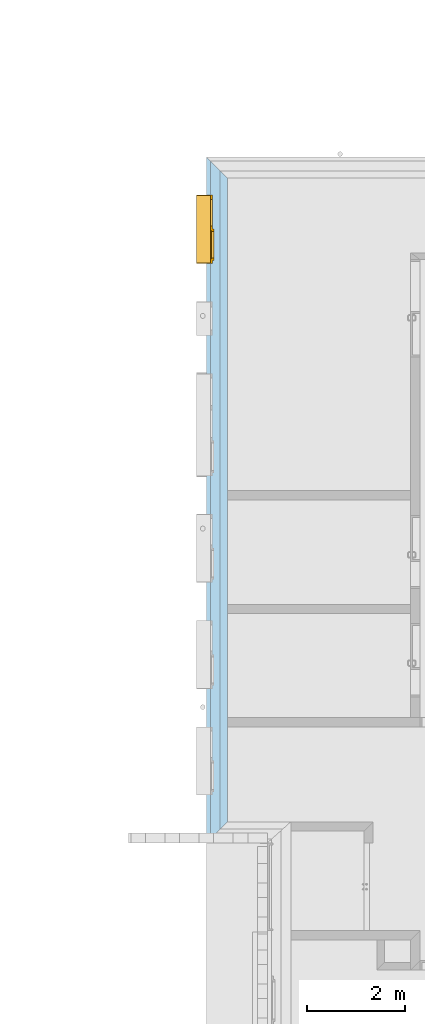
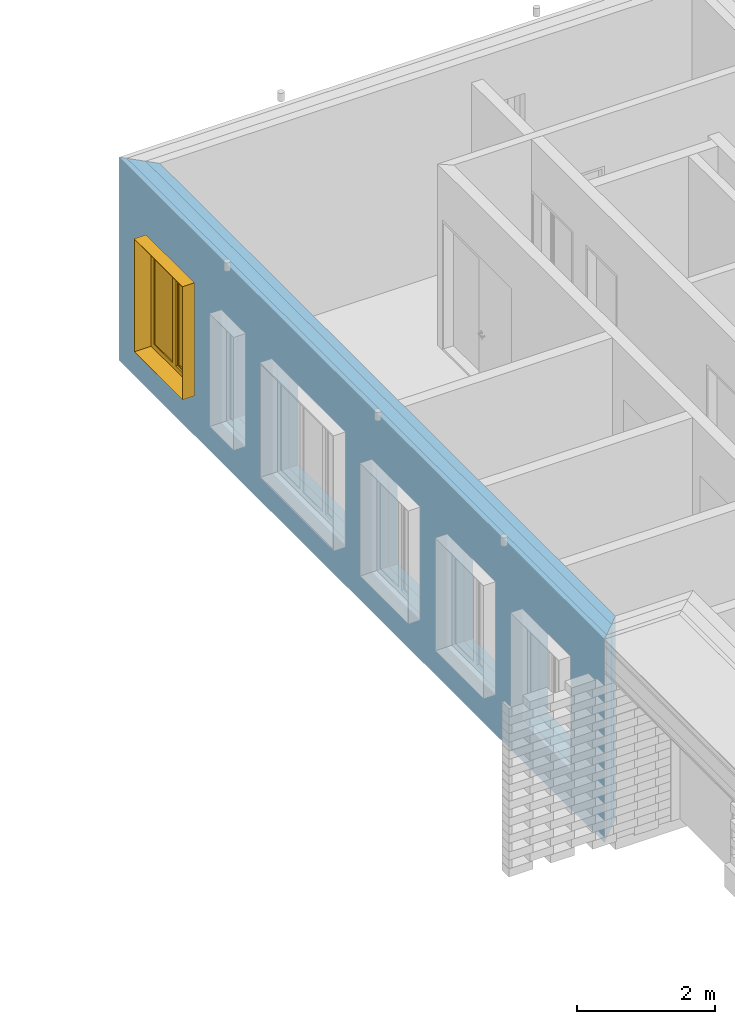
# One storey, part 34 of 62: 1 window, 6 openings, 1 element without a shape of its own, plus 3 elements that do not belong to this part.
"""IFC2X3 building model written with IfcOpenShell, lengths in millimetres."""

from ifc_helpers import new_model, entity, si_unit, converted_unit, derived_unit, money_unit, direction, frame, origin_with_axes, origin_2d_with_axis, place, context, subcontext, project, spatial, polyline, rectangle, outline, extrude, open_shell, faceted_brep, surface_model, material, type_object, element, fill, aggregate, save


model = new_model("IFC2X3")

# Units and contexts
model_context = context("Model", 3, precision=0.01, world=origin_with_axes(), true_north=direction((0.0, 1.0)))
body_context = subcontext(model_context, "Body", "Model", "MODEL_VIEW")
ifc_project = project(units=[si_unit("LENGTHUNIT", "METRE", prefix="MILLI"), si_unit("AREAUNIT", "SQUARE_METRE"), si_unit("VOLUMEUNIT", "CUBIC_METRE"), converted_unit("PLANEANGLEUNIT", "DEGREE", entity("IfcPlaneAngleMeasure", 0.0174532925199), si_unit("PLANEANGLEUNIT", "RADIAN"), dimensions=[0, 0, 0, 0, 0, 0, 0]), si_unit("SOLIDANGLEUNIT", "STERADIAN"), money_unit("EUR"), converted_unit("TIMEUNIT", "Year", entity("IfcTimeMeasure", 31556926.0), si_unit("TIMEUNIT", "SECOND"), dimensions=[0, 0, 1, 0, 0, 0, 0]), si_unit("MASSUNIT", "GRAM", prefix="KILO"), si_unit("THERMODYNAMICTEMPERATUREUNIT", "DEGREE_CELSIUS"), si_unit("LUMINOUSINTENSITYUNIT", "LUMEN"), si_unit("ENERGYUNIT", "JOULE", prefix="MEGA"), derived_unit("THERMALCONDUCTANCEUNIT", [(si_unit("POWERUNIT", "WATT"), 1), (si_unit("LENGTHUNIT", "METRE"), -1), (si_unit("THERMODYNAMICTEMPERATUREUNIT", "KELVIN"), -1)]), derived_unit("SPECIFICHEATCAPACITYUNIT", [(si_unit("ENERGYUNIT", "JOULE"), 1), (si_unit("MASSUNIT", "GRAM", prefix="KILO"), -1), (si_unit("THERMODYNAMICTEMPERATUREUNIT", "KELVIN"), -1)]), derived_unit("MASSDENSITYUNIT", [(si_unit("MASSUNIT", "GRAM", prefix="KILO"), 1), (si_unit("VOLUMEUNIT", "CUBIC_METRE"), -1)])], contexts=[model_context])

# Site, building, storey
site_placement = place(None, origin_with_axes())
site = spatial("IfcSite", under=ifc_project, at=site_placement, Name="KIRDE 14, ELVA", CompositionType="ELEMENT")
building_placement = place(site_placement, origin_with_axes())
building = spatial("IfcBuilding", under=site, at=building_placement, Name="PPA ja Päästeameti ühishoone", CompositionType="ELEMENT")
storey_placement = place(building_placement, origin_with_axes())
storey = spatial("IfcBuildingStorey", under=building, at=storey_placement, Name="Esimene korrus", CompositionType="ELEMENT", Elevation=0.0)

# Window
window_style = type_object("IfcWindowStyle", Name="Double Window 24", ConstructionType="NOTDEFINED", OperationType="DOUBLE_PANEL_VERTICAL", ParameterTakesPrecedence=False, Sizeable=False)
wall_placement = place(storey_placement, frame((6.053596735e-06, 11400.3970033, 0.0), z_axis=(0.0, 0.0, 1.0), x_axis=(-3.88068132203e-10, 1.0, 0.0)))
opening_2_placement = place(wall_placement, frame((12149.4861718, 0.0, 700.0), z_axis=(0.0, 0.0, 1.0), x_axis=(1.0, 0.0, 0.0)))
window_placement = place(opening_2_placement, frame((700.0, 0.0, 0.0), z_axis=(0.0, 0.0, 1.0), x_axis=(-1.0, 0.0, 0.0)))
window = element("IfcWindow", 1, at=window_placement, inside=storey, type_object=window_style, Name="A-05", ObjectType="WINDOW", OverallHeight=2000.0, OverallWidth=1400.0, context=body_context, shape_type="SurfaceModel", body=[
    faceted_brep([(1399.99999986, -349.999995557, 0.0), (1399.99999983, -429.999995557, 0.0), (-1.66870961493e-07, -429.999995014, 0.0), (-1.35823796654e-07, -349.999995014, 0.0), (1399.99999986, -349.999995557, 2000.0), (1399.99999983, -429.999995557, 2000.0), (-1.66870961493e-07, -429.999995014, 2000.0), (1394.99999983, -429.999995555, 5.0), (4.99999983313, -429.999995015, 5.0), (4.99999983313, -429.999995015, 1995.0), (1394.99999983, -429.999995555, 1995.0), (-1.35823796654e-07, -349.999995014, 2000.0), (1394.99999986, -349.999995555, 5.0), (1394.99999986, -349.999995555, 1995.0), (4.99999986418, -349.999995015, 1995.0), (4.99999986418, -349.999995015, 5.0)], [[[0, 1, 2, 3]], [[4, 5, 1, 0]], [[1, 5, 6, 2], [7, 8, 9, 10]], [[3, 2, 6, 11]], [[0, 3, 11, 4], [12, 13, 14, 15]], [[11, 6, 5, 4]], [[15, 8, 7, 12]], [[14, 9, 8, 15]], [[13, 10, 9, 14]], [[12, 7, 10, 13]]]),
    faceted_brep([(1399.99999976, -629.999995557, 0.0), (1394.99999976, -629.999995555, 5.0), (1394.99999983, -429.999995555, 5.0), (1399.99999983, -429.999995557, 0.0), (1399.99999976, -629.999995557, 2000.0), (1394.99999976, -629.999995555, 1995.0), (1394.99999983, -429.999995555, 1995.0), (1399.99999983, -429.999995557, 2000.0)], [[[0, 1, 2, 3]], [[0, 4, 5, 1]], [[1, 5, 6, 2]], [[3, 2, 6, 7]], [[4, 0, 3, 7]], [[5, 4, 7, 6]]]),
    faceted_brep([(-2.4448354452e-07, -629.999995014, 2000.0), (4.99999975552, -629.999995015, 1995.0), (4.99999983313, -429.999995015, 1995.0), (-1.66870961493e-07, -429.999995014, 2000.0), (-2.4448354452e-07, -629.999995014, 0.0), (4.99999975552, -629.999995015, 5.0), (4.99999983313, -429.999995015, 5.0), (-1.66870961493e-07, -429.999995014, 0.0)], [[[0, 1, 2, 3]], [[0, 4, 5, 1]], [[1, 5, 6, 2]], [[3, 2, 6, 7]], [[4, 0, 3, 7]], [[5, 4, 7, 6]]]),
    faceted_brep([(-2.4448354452e-07, -629.999995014, 0.0), (4.99999975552, -629.999995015, 5.0), (4.99999983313, -429.999995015, 5.0), (-1.66870961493e-07, -429.999995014, 0.0), (1399.99999976, -629.999995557, 0.0), (1394.99999976, -629.999995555, 5.0), (1394.99999983, -429.999995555, 5.0), (1399.99999983, -429.999995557, 0.0)], [[[0, 1, 2, 3]], [[0, 4, 5, 1]], [[1, 5, 6, 2]], [[3, 2, 6, 7]], [[4, 0, 3, 7]], [[5, 4, 7, 6]]]),
    faceted_brep([(1399.99999976, -629.999995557, 2000.0), (1394.99999976, -629.999995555, 1995.0), (1394.99999983, -429.999995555, 1995.0), (1399.99999983, -429.999995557, 2000.0), (-2.4448354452e-07, -629.999995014, 2000.0), (4.99999975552, -629.999995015, 1995.0), (4.99999983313, -429.999995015, 1995.0), (-1.66870961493e-07, -429.999995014, 2000.0)], [[[0, 1, 2, 3]], [[0, 4, 5, 1]], [[1, 5, 6, 2]], [[3, 2, 6, 7]], [[4, 0, 3, 7]], [[5, 4, 7, 6]]]),
    faceted_brep([(1334.99999988, -299.999995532, 1910.0), (1334.99999987, -324.999995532, 1910.0), (1309.99999987, -324.999995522, 1910.0), (1309.99999986, -349.999995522, 1910.0), (1399.99999986, -349.999995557, 1910.0), (1399.99999988, -299.999995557, 1910.0), (1334.99999988, -299.999995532, 90.0), (1334.99999987, -324.999995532, 90.0), (1309.99999987, -324.999995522, 90.0), (1309.99999986, -349.999995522, 90.0), (1399.99999986, -349.999995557, 90.0), (1399.99999988, -299.999995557, 90.0)], [[[0, 1, 2, 3, 4, 5]], [[1, 0, 6, 7]], [[8, 2, 1, 7]], [[2, 8, 9, 3]], [[4, 3, 9, 10]], [[5, 4, 10, 11]], [[6, 0, 5, 11]], [[7, 6, 11, 10, 9, 8]]]),
    faceted_brep([(719.999999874, -324.999995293, 1910.0), (694.999999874, -324.999995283, 1910.0), (694.999999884, -299.999995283, 1910.0), (629.999999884, -299.999995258, 1910.0), (629.999999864, -349.999995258, 1910.0), (719.999999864, -349.999995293, 1910.0), (719.999999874, -324.999995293, 90.0), (694.999999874, -324.999995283, 90.0), (694.999999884, -299.999995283, 90.0), (629.999999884, -299.999995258, 90.0), (629.999999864, -349.999995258, 90.0), (719.999999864, -349.999995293, 90.0)], [[[0, 1, 2, 3, 4, 5]], [[1, 0, 6, 7]], [[8, 2, 1, 7]], [[2, 8, 9, 3]], [[9, 10, 4, 3]], [[10, 11, 5, 4]], [[6, 0, 5, 11]], [[7, 6, 11, 10, 9, 8]]]),
    faceted_brep([(719.999999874, -324.999995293, 90.0), (694.999999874, -324.999995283, 90.0), (694.999999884, -299.999995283, 90.0), (629.999999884, -299.999995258, 90.0), (629.999999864, -349.999995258, 90.0), (719.999999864, -349.999995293, 90.0), (1309.99999987, -324.999995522, 90.0), (1334.99999987, -324.999995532, 90.0), (1334.99999987, -324.999995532, 65.0), (694.999999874, -324.999995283, 65.0), (694.999999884, -299.999995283, 65.0), (1334.99999988, -299.999995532, 65.0), (1334.99999988, -299.999995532, 90.0), (1399.99999988, -299.999995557, 90.0), (1399.99999988, -299.999995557, 0.0), (-1.16418874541e-07, -299.999995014, 0.0), (-1.16418874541e-07, -299.999995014, 90.0), (89.9999998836, -299.999995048, 90.0), (89.9999998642, -349.999995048, 90.0), (1399.99999986, -349.999995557, 90.0), (1309.99999986, -349.999995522, 90.0), (-1.35823796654e-07, -349.999995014, 90.0), (-1.35823796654e-07, -349.999995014, 0.0), (1399.99999986, -349.999995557, 0.0)], [[[0, 1, 2, 3, 4, 5]], [[1, 0, 6, 7, 8, 9]], [[10, 2, 1, 9]], [[11, 12, 13, 14, 15, 16, 17, 3, 2, 10]], [[17, 18, 4, 3]], [[19, 20, 5, 4, 18, 21, 22, 23]], [[6, 0, 5, 20]], [[7, 6, 20, 19, 13, 12]], [[7, 12, 11, 8]], [[11, 10, 9, 8]], [[13, 19, 23, 14]], [[14, 23, 22, 15]], [[15, 22, 21, 16]], [[16, 21, 18, 17]]]),
    faceted_brep([(1334.99999988, -299.999995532, 1910.0), (1334.99999988, -299.999995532, 1935.0), (694.999999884, -299.999995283, 1935.0), (694.999999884, -299.999995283, 1910.0), (629.999999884, -299.999995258, 1910.0), (89.9999998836, -299.999995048, 1910.0), (-1.16418874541e-07, -299.999995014, 1910.0), (-1.16418874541e-07, -299.999995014, 2000.0), (1399.99999988, -299.999995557, 2000.0), (1399.99999988, -299.999995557, 1910.0), (1334.99999987, -324.999995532, 1910.0), (1334.99999987, -324.999995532, 1935.0), (694.999999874, -324.999995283, 1935.0), (694.999999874, -324.999995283, 1910.0), (719.999999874, -324.999995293, 1910.0), (719.999999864, -349.999995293, 1910.0), (629.999999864, -349.999995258, 1910.0), (89.9999998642, -349.999995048, 1910.0), (-1.35823796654e-07, -349.999995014, 1910.0), (-1.35823796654e-07, -349.999995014, 2000.0), (1399.99999986, -349.999995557, 2000.0), (1399.99999986, -349.999995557, 1910.0), (1309.99999986, -349.999995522, 1910.0), (1309.99999987, -324.999995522, 1910.0)], [[[0, 1, 2, 3, 4, 5, 6, 7, 8, 9]], [[1, 0, 10, 11]], [[2, 1, 11, 12]], [[3, 2, 12, 13]], [[13, 14, 15, 16, 4, 3]], [[4, 16, 17, 5]], [[5, 17, 18, 6]], [[6, 18, 19, 7]], [[7, 19, 20, 8]], [[8, 20, 21, 9]], [[10, 0, 9, 21, 22, 23]], [[14, 13, 12, 11, 10, 23]], [[14, 23, 22, 15]], [[16, 15, 22, 21, 20, 19, 18, 17]]]),
    faceted_brep([(89.9999998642, -349.999995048, 90.0), (-1.35823796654e-07, -349.999995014, 90.0), (-1.16418874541e-07, -299.999995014, 90.0), (89.9999998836, -299.999995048, 90.0), (89.9999998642, -349.999995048, 1910.0), (-1.35823796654e-07, -349.999995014, 1910.0), (-1.16418874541e-07, -299.999995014, 1910.0), (89.9999998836, -299.999995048, 1910.0)], [[[0, 1, 2, 3]], [[0, 4, 5, 1]], [[1, 5, 6, 2]], [[3, 2, 6, 7]], [[4, 0, 3, 7]], [[5, 4, 7, 6]]]),
    faceted_brep([(1284.99999987, -324.999995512, 1885.0), (1334.99999987, -324.999995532, 1885.0), (1334.99999989, -274.999995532, 1885.0), (1284.99999989, -274.999995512, 1885.0), (1284.99999987, -324.999995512, 115.0), (1334.99999987, -324.999995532, 115.0), (1334.99999989, -274.999995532, 115.0), (1284.99999989, -274.999995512, 115.0)], [[[0, 1, 2, 3]], [[0, 4, 5, 1]], [[1, 5, 6, 2]], [[3, 2, 6, 7]], [[4, 0, 3, 7]], [[5, 4, 7, 6]]]),
    faceted_brep([(744.999999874, -324.999995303, 115.0), (694.999999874, -324.999995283, 115.0), (694.999999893, -274.999995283, 115.0), (744.999999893, -274.999995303, 115.0), (744.999999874, -324.999995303, 1885.0), (694.999999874, -324.999995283, 1885.0), (694.999999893, -274.999995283, 1885.0), (744.999999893, -274.999995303, 1885.0)], [[[0, 1, 2, 3]], [[0, 4, 5, 1]], [[1, 5, 6, 2]], [[3, 2, 6, 7]], [[4, 0, 3, 7]], [[5, 4, 7, 6]]]),
    faceted_brep([(694.999999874, -324.999995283, 65.0), (694.999999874, -324.999995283, 115.0), (694.999999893, -274.999995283, 115.0), (694.999999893, -274.999995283, 65.0), (1334.99999987, -324.999995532, 65.0), (1334.99999987, -324.999995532, 115.0), (1284.99999987, -324.999995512, 115.0), (744.999999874, -324.999995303, 115.0), (744.999999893, -274.999995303, 115.0), (1284.99999989, -274.999995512, 115.0), (1334.99999989, -274.999995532, 115.0), (1334.99999989, -274.999995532, 65.0)], [[[0, 1, 2, 3]], [[0, 4, 5, 6, 7, 1]], [[1, 7, 8, 2]], [[3, 2, 8, 9, 10, 11]], [[4, 0, 3, 11]], [[5, 4, 11, 10]], [[6, 5, 10, 9]], [[7, 6, 9, 8]]]),
    faceted_brep([(1334.99999987, -324.999995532, 1935.0), (1334.99999987, -324.999995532, 1885.0), (1334.99999989, -274.999995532, 1885.0), (1334.99999989, -274.999995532, 1935.0), (694.999999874, -324.999995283, 1935.0), (694.999999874, -324.999995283, 1885.0), (744.999999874, -324.999995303, 1885.0), (1284.99999987, -324.999995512, 1885.0), (1284.99999989, -274.999995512, 1885.0), (744.999999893, -274.999995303, 1885.0), (694.999999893, -274.999995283, 1885.0), (694.999999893, -274.999995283, 1935.0)], [[[0, 1, 2, 3]], [[0, 4, 5, 6, 7, 1]], [[1, 7, 8, 2]], [[3, 2, 8, 9, 10, 11]], [[4, 0, 3, 11]], [[5, 4, 11, 10]], [[6, 5, 10, 9]], [[7, 6, 9, 8]]]),
    surface_model("IfcShellBasedSurfaceModel", [(1284.99999988, -309.999995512, 115.0), (1284.99999988, -309.999995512, 1885.0), (744.99999988, -309.999995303, 1885.0), (744.99999988, -309.999995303, 115.0)], [open_shell([[[0, 1, 2, 3]]])]),
    surface_model("IfcShellBasedSurfaceModel", [(1284.99999989, -289.999995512, 115.0), (744.999999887, -289.999995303, 115.0), (744.999999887, -289.999995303, 1885.0), (1284.99999989, -289.999995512, 1885.0)], [open_shell([[[0, 1, 2, 3]]])]),
    surface_model("IfcShellBasedSurfaceModel", [(629.99999987, -334.999995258, 90.0), (629.99999987, -334.999995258, 1910.0), (89.99999987, -334.999995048, 1910.0), (89.99999987, -334.999995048, 90.0)], [open_shell([[[0, 1, 2, 3]]])]),
    surface_model("IfcShellBasedSurfaceModel", [(629.999999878, -314.999995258, 90.0), (89.9999998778, -314.999995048, 90.0), (89.9999998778, -314.999995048, 1910.0), (629.999999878, -314.999995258, 1910.0)], [open_shell([[[0, 1, 2, 3]]])]),
])

# Wall, openings
wall_type = type_object("IfcWallType", Name="VS-01 430", PredefinedType="NOTDEFINED")
wall = element("IfcWall", 2, at=wall_placement, inside=storey, type_object=wall_type, Name="VS-01")
opening_1_placement = place(wall_placement, frame((1249.48617181, 0.0, 700.0), z_axis=(0.0, 0.0, 1.0), x_axis=(1.0, 0.0, 0.0)))
element("IfcOpeningElement", 3, at=opening_1_placement, cuts=wall, Name="A-05", context=body_context, shape_type="SweptSolid", body=[
    extrude(rectangle(XDim=1400.0, YDim=2000.0, at=origin_2d_with_axis()), frame((1.35823796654e-07, 349.999999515, 1000.0), z_axis=(-3.88068310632e-10, -1.0, 0.0), x_axis=(1.0, -3.880683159e-10, 0.0)), (0.0, 0.0, 1.0), 780.0),
    extrude(rectangle(XDim=1400.0, YDim=2000.0, at=origin_2d_with_axis()), frame((1.35823796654e-07, 349.999999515, 1000.0), z_axis=(3.88068290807e-10, 1.0, 0.0), x_axis=(1.0, -3.880683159e-10, 0.0)), (0.0, 0.0, 1.0), 510.0),
    extrude(rectangle(XDim=1400.0, YDim=2000.0, at=origin_2d_with_axis()), frame((1.66869185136e-07, 429.999999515, 1000.0), z_axis=(3.88068290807e-10, 1.0, 0.0), x_axis=(1.0, -3.880683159e-10, 0.0)), (0.0, 0.0, 1.0), 510.0),
])
opening_2 = element("IfcOpeningElement", 4, at=opening_2_placement, cuts=wall, Name="A-05", context=body_context, shape_type="SweptSolid", body=[
    extrude(rectangle(XDim=1400.0, YDim=2000.0, at=origin_2d_with_axis()), frame((1.35823796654e-07, 349.999995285, 1000.0), z_axis=(-3.88068310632e-10, -1.0, 0.0), x_axis=(1.0, -3.880683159e-10, 0.0)), (0.0, 0.0, 1.0), 780.0),
    extrude(rectangle(XDim=1400.0, YDim=2000.0, at=origin_2d_with_axis()), frame((1.35823796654e-07, 349.999995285, 1000.0), z_axis=(3.88068290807e-10, 1.0, 0.0), x_axis=(1.0, -3.880683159e-10, 0.0)), (0.0, 0.0, 1.0), 510.0),
    extrude(rectangle(XDim=1400.0, YDim=2000.0, at=origin_2d_with_axis()), frame((1.66870961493e-07, 429.999995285, 1000.0), z_axis=(3.88068290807e-10, 1.0, 0.0), x_axis=(1.0, -3.880683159e-10, 0.0)), (0.0, 0.0, 1.0), 510.0),
])

fill(opening_2, window)

# Opening
opening_3_placement = place(wall_placement, frame((8139.48617181, 0.0, 700.0), z_axis=(0.0, 0.0, 1.0), x_axis=(1.0, 0.0, 0.0)))
element("IfcOpeningElement", 5, at=opening_3_placement, cuts=wall, Name="A-09", context=body_context, shape_type="SweptSolid", body=[
    extrude(rectangle(XDim=2100.0, YDim=2000.0, at=origin_2d_with_axis()), frame((1.35823796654e-07, 349.999996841, 1000.0), z_axis=(-3.88068304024e-10, -1.0, 0.0), x_axis=(1.0, -3.880683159e-10, 0.0)), (0.0, 0.0, 1.0), 780.0),
    extrude(rectangle(XDim=2100.0, YDim=2000.0, at=origin_2d_with_axis()), frame((1.35823796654e-07, 349.999996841, 1000.0), z_axis=(3.88068343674e-10, 1.0, 0.0), x_axis=(1.0, -3.880683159e-10, 0.0)), (0.0, 0.0, 1.0), 510.0),
    extrude(rectangle(XDim=2140.0, YDim=2040.0, at=origin_2d_with_axis()), frame((1.66870961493e-07, 429.999996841, 1000.0), z_axis=(3.88068339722e-10, 1.0, 0.0), x_axis=(1.0, -3.880683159e-10, 0.0)), (0.0, 0.0, 1.0), 510.0),
])

opening_4_placement = place(wall_placement, frame((10319.4861718, 0.0, 700.0), z_axis=(0.0, 0.0, 1.0), x_axis=(1.0, 0.0, 0.0)))
element("IfcOpeningElement", 6, at=opening_4_placement, cuts=wall, Name="A-01", context=body_context, shape_type="SweptSolid", body=[
    extrude(rectangle(XDim=700.0, YDim=2000.0, at=origin_2d_with_axis()), frame((1.35823796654e-07, 349.999995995, 1000.0), z_axis=(-3.88068290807e-10, -1.0, 0.0), x_axis=(1.0, -3.880683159e-10, 0.0)), (0.0, 0.0, 1.0), 780.0),
    extrude(rectangle(XDim=700.0, YDim=2000.0, at=origin_2d_with_axis()), frame((1.35823796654e-07, 349.999995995, 1000.0), z_axis=(3.88068330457e-10, 1.0, 0.0), x_axis=(1.0, -3.880683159e-10, 0.0)), (0.0, 0.0, 1.0), 510.0),
    extrude(rectangle(XDim=700.0, YDim=2000.0, at=origin_2d_with_axis()), frame((1.66870961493e-07, 429.999995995, 1000.0), z_axis=(3.88068330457e-10, 1.0, 0.0), x_axis=(1.0, -3.880683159e-10, 0.0)), (0.0, 0.0, 1.0), 510.0),
])

opening_5_placement = place(wall_placement, frame((5609.48617181, 0.0, 700.0), z_axis=(0.0, 0.0, 1.0), x_axis=(1.0, 0.0, 0.0)))
element("IfcOpeningElement", 7, at=opening_5_placement, cuts=wall, Name="A-05", context=body_context, shape_type="SweptSolid", body=[
    extrude(rectangle(XDim=1400.0, YDim=2000.0, at=origin_2d_with_axis()), frame((1.35823796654e-07, 349.999997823, 1000.0), z_axis=(-3.88068310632e-10, -1.0, 0.0), x_axis=(1.0, -3.880683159e-10, 0.0)), (0.0, 0.0, 1.0), 780.0),
    extrude(rectangle(XDim=1400.0, YDim=2000.0, at=origin_2d_with_axis()), frame((1.35823796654e-07, 349.999997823, 1000.0), z_axis=(3.88068350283e-10, 1.0, 0.0), x_axis=(1.0, -3.880683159e-10, 0.0)), (0.0, 0.0, 1.0), 510.0),
    extrude(rectangle(XDim=1400.0, YDim=2000.0, at=origin_2d_with_axis()), frame((1.66870961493e-07, 429.999997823, 1000.0), z_axis=(3.88068350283e-10, 1.0, 0.0), x_axis=(1.0, -3.880683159e-10, 0.0)), (0.0, 0.0, 1.0), 510.0),
])

opening_6_placement = place(wall_placement, frame((3429.48617181, 0.0, 700.0), z_axis=(0.0, 0.0, 1.0), x_axis=(1.0, 0.0, 0.0)))
element("IfcOpeningElement", 8, at=opening_6_placement, cuts=wall, Name="A-05", context=body_context, shape_type="SweptSolid", body=[
    extrude(rectangle(XDim=1400.0, YDim=2000.0, at=origin_2d_with_axis()), frame((1.35823796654e-07, 349.999998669, 1000.0), z_axis=(-3.88068310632e-10, -1.0, 0.0), x_axis=(1.0, -3.880683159e-10, 0.0)), (0.0, 0.0, 1.0), 780.0),
    extrude(rectangle(XDim=1400.0, YDim=2000.0, at=origin_2d_with_axis()), frame((1.35823796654e-07, 349.999998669, 1000.0), z_axis=(3.88068350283e-10, 1.0, 0.0), x_axis=(1.0, -3.880683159e-10, 0.0)), (0.0, 0.0, 1.0), 510.0),
    extrude(rectangle(XDim=1400.0, YDim=2000.0, at=origin_2d_with_axis()), frame((1.66869185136e-07, 429.999998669, 1000.0), z_axis=(3.88068350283e-10, 1.0, 0.0), x_axis=(1.0, -3.880683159e-10, 0.0)), (0.0, 0.0, 1.0), 510.0),
])

# Building element part
ifc_material_1 = material(Name="Raudbetoon Paneelid (2)")
building_element_part_1_placement = place(wall_placement, origin_with_axes())
building_element_part_1 = element("IfcBuildingElementPart", 9, at=building_element_part_1_placement, material=ifc_material_1, Name="Raudbetoon Paneelid (2)", context=body_context, shape_type="SweptSolid", body=[
    extrude(outline(polyline([(0.0, 0.0), (13199.419729, 0.0), (13349.419729, 150.0), (-149.999955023, 150.0), (0.0, 0.0)])), origin_with_axes(), (0.0, 0.0, 1.0), 3600.0),
])

ifc_material_2 = material(Name="Vahtpolüstüreen (4)")
building_element_part_2_placement = place(wall_placement, origin_with_axes())
building_element_part_2 = element("IfcBuildingElementPart", 10, at=building_element_part_2_placement, material=ifc_material_2, Name="Vahtpolüstüreen (4)", context=body_context, shape_type="SweptSolid", body=[
    extrude(outline(polyline([(-149.999955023, 150.0), (13349.419729, 150.0), (13549.4197289, 350.0), (-349.999895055, 350.0), (-149.999955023, 150.0)])), origin_with_axes(), (0.0, 0.0, 1.0), 3600.0),
])

building_element_part_3_placement = place(wall_placement, origin_with_axes())
building_element_part_3 = element("IfcBuildingElementPart", 11, at=building_element_part_3_placement, material=ifc_material_1, Name="Raudbetoon Paneelid (2)", context=body_context, shape_type="SweptSolid", body=[
    extrude(outline(polyline([(-349.999895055, 350.0), (13549.4197289, 350.0), (13629.4197289, 430.0), (-429.999871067, 430.0), (-349.999895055, 350.0)])), origin_with_axes(), (0.0, 0.0, 1.0), 3600.0),
])

aggregate(wall, [building_element_part_1, building_element_part_2, building_element_part_3])

save(model, "model.ifc")
